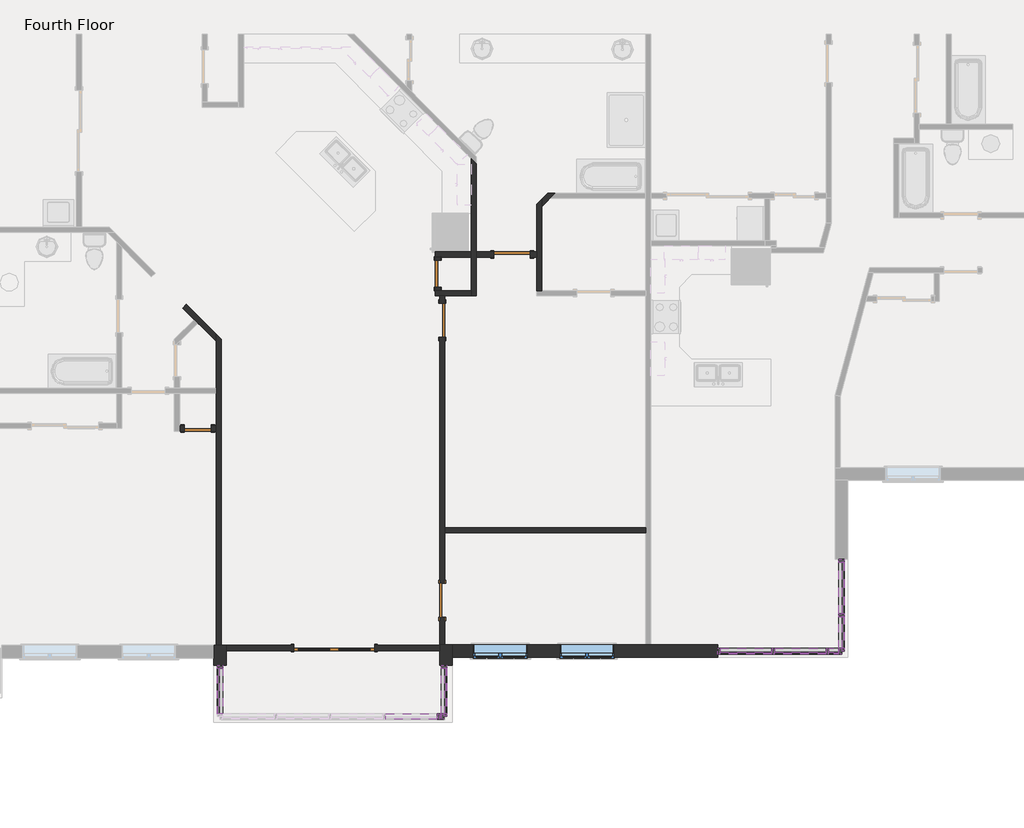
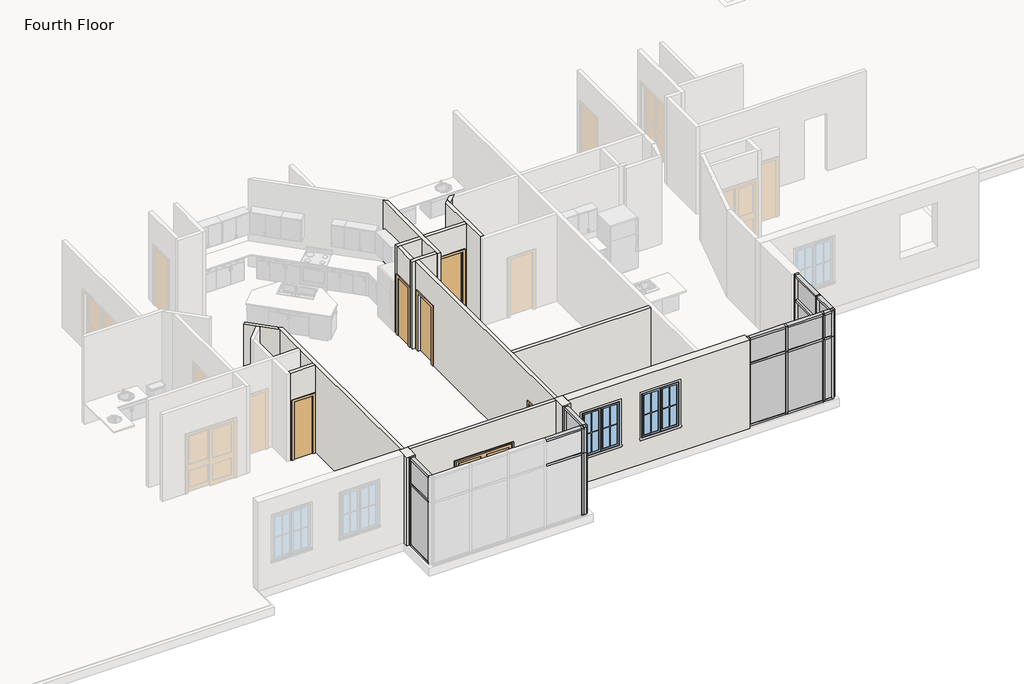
# One storey, part 4 of 17: 50 members, 16 plates, 15 walls, 6 doors, 2 windows.
"""IFC4 building model written with IfcOpenShell, lengths in millimetres."""

from ifc_helpers import new_model, si_unit, frame, origin, place, context, project, spatial, polyline, outline, extrude, faceted_brep, transform, mapped, element, save
from components import door_0a7806e9, door_e2285e44, door_f2b275c1, door_d141acb4, rectangular_mullion_rectangular_mullion_1_fa3625a1, rectangular_mullion_rectangular_mullion_1_7cbf0b94, rectangular_mullion_rectangular_mullion_1_6186cc23, rectangular_mullion_rectangular_mullion_1_049a2e78, rectangular_mullion_rectangular_mullion_1_a50b3cda, rectangular_mullion_rectangular_mullion_1_5cd4c5ac, rectangular_mullion_rectangular_mullion_1_13524bf9, rectangular_mullion_rectangular_mullion_1_a1888574, rectangular_mullion_rectangular_mullion_1_777cae27, rectangular_mullion_rectangular_mullion_1_d1eb19d3, rectangular_mullion_rectangular_mullion_1_51e130ae, rectangular_mullion_rectangular_mullion_1_daa2411d, rectangular_mullion_rectangular_mullion_1_c89d8757, rectangular_mullion_rectangular_mullion_1_6bbe7064, system_panel_glazed_0ed27d1d, system_panel_glazed_134bacdb, system_panel_glazed_53e6f9fb, system_panel_glazed_cb820e14, system_panel_glazed_7c98c5cb, system_panel_glazed_dc3c0d95, system_panel_glazed_257c6b8d, system_panel_glazed_6272dde4, system_panel_glazed_2237517c, system_panel_glazed_5f627d4c, system_panel_glazed_119c605a, system_panel_glazed_b87cf22f, window_33528cc2

model = new_model("IFC4")

# Units and contexts
model_context = context("Model", 3, world=origin())
ifc_project = project(units=[si_unit("LENGTHUNIT", "METRE", prefix="MILLI")], contexts=[model_context])

# Site, building, storey
site = spatial("IfcSite", under=ifc_project)
building = spatial("IfcBuilding", under=site)
storey = spatial("IfcBuildingStorey", under=building, Name="Fourth Floor", Elevation=9144.0)

# Doors
placement = place(None, origin())
door_shape = door_0a7806e9(model_context)
element("IfcDoor", 1, ObjectType="Double-Glass 1 : 72\" x 82\"", at=placement, inside=storey, context=model_context, shape_type="MappedRepresentation", body=[
    mapped(door_shape, transform((35119.623284, -18481.0379087, 9144.0), x_axis=(-1.0, 0.0, 0.0), y_axis=(0.0, -1.0, 0.0), z_axis=(0.0, 0.0, 1.0))),
])
door_2_shape = door_e2285e44(model_context)
element("IfcDoor", 2, ObjectType="Single-Flush : 24\" x 80\"", at=placement, inside=storey, context=model_context, shape_type="MappedRepresentation", body=[
    mapped(door_2_shape, transform((37444.6738013, -10083.539835, 9144.0), x_axis=(0.0, -1.0, 0.0), y_axis=(1.0, 0.0, 0.0), z_axis=(0.0, 0.0, 1.0))),
])
element("IfcDoor", 3, ObjectType="Single-Flush : 24\" x 80\"", at=placement, inside=storey, context=model_context, shape_type="MappedRepresentation", body=[
    mapped(door_2_shape, transform((32056.0053, -13556.0564679, 9144.0), x_axis=(1.0, 0.0, 0.0), y_axis=(0.0, 1.0, 0.0), z_axis=(0.0, 0.0, 1.0))),
])
door_3_shape = door_f2b275c1(model_context)
element("IfcDoor", 4, ObjectType="Single-Flush : 30\" x 80\"", at=placement, inside=storey, context=model_context, shape_type="MappedRepresentation", body=[
    mapped(door_3_shape, transform((37544.2970292, -11126.7896208, 9144.0), x_axis=(0.0, 1.0, 0.0), y_axis=(-1.0, 0.0, 0.0), z_axis=(0.0, 0.0, 1.0))),
])
element("IfcDoor", 5, ObjectType="Single-Flush : 30\" x 80\"", at=placement, inside=storey, context=model_context, shape_type="MappedRepresentation", body=[
    mapped(door_3_shape, transform((37544.2970292, -17416.6191587, 9144.0), x_axis=(0.0, -1.0, 0.0), y_axis=(1.0, 0.0, 0.0), z_axis=(0.0, 0.0, 1.0))),
])
door_4_shape = door_d141acb4(model_context)
element("IfcDoor", 6, ObjectType="Single-Flush : 32\" x 84\"", at=placement, inside=storey, context=model_context, shape_type="MappedRepresentation", body=[
    mapped(door_4_shape, transform((39111.3713345, -9649.8900492, 9144.0), x_axis=(1.0, 0.0, 0.0), y_axis=(0.0, 1.0, 0.0), z_axis=(0.0, 0.0, 1.0))),
])

# Members
rectangular_mullion_rectangular_mullion_1_shape = rectangular_mullion_rectangular_mullion_1_fa3625a1(model_context)
element("IfcMember", 7, ObjectType="Rectangular Mullion : Rectangular Mullion 1", at=placement, inside=storey, context=model_context, shape_type="MappedRepresentation", body=[
    mapped(rectangular_mullion_rectangular_mullion_1_shape, transform((44943.6345295, -18555.6618072, 12192.0), x_axis=(0.0, 0.0, 1.0), y_axis=(0.0, -1.0, 0.0), z_axis=(1.0, 0.0, 0.0))),
])
element("IfcMember", 8, ObjectType="Rectangular Mullion : Rectangular Mullion 1", at=placement, inside=storey, context=model_context, shape_type="MappedRepresentation", body=[
    mapped(rectangular_mullion_rectangular_mullion_1_shape, transform((46162.8345295, -18555.6618072, 12192.0), x_axis=(0.0, 0.0, 1.0), y_axis=(0.0, -1.0, 0.0), z_axis=(1.0, 0.0, 0.0))),
])
element("IfcMember", 9, ObjectType="Rectangular Mullion : Rectangular Mullion 1", at=placement, inside=storey, context=model_context, shape_type="MappedRepresentation", body=[
    mapped(rectangular_mullion_rectangular_mullion_1_shape, transform((37430.4620392, -20021.7015972, 12192.0), x_axis=(0.0, 0.0, 1.0), y_axis=(0.0, -1.0, 0.0), z_axis=(1.0, 0.0, 0.0))),
])
element("IfcMember", 10, ObjectType="Rectangular Mullion : Rectangular Mullion 1", at=placement, inside=storey, context=model_context, shape_type="MappedRepresentation", body=[
    mapped(rectangular_mullion_rectangular_mullion_1_shape, transform((43787.9345292, -18555.6618072, 9144.0), x_axis=(0.0, 0.0, -1.0), y_axis=(0.0, -1.0, 0.0), z_axis=(-1.0, 0.0, 0.0))),
])
element("IfcMember", 11, ObjectType="Rectangular Mullion : Rectangular Mullion 1", at=placement, inside=storey, context=model_context, shape_type="MappedRepresentation", body=[
    mapped(rectangular_mullion_rectangular_mullion_1_shape, transform((45007.1345295, -18555.6618072, 9144.0), x_axis=(0.0, 0.0, -1.0), y_axis=(0.0, -1.0, 0.0), z_axis=(-1.0, 0.0, 0.0))),
])
rectangular_mullion_rectangular_mullion_1_2_shape = rectangular_mullion_rectangular_mullion_1_7cbf0b94(model_context)
element("IfcMember", 12, ObjectType="Rectangular Mullion : Rectangular Mullion 1", at=placement, inside=storey, context=model_context, shape_type="MappedRepresentation", body=[
    mapped(rectangular_mullion_rectangular_mullion_1_2_shape, transform((44943.6345295, -18555.6618072, 11309.35), x_axis=(0.0, 0.0, 1.0), y_axis=(0.0, -1.0, 0.0), z_axis=(1.0, 0.0, 0.0))),
])
element("IfcMember", 13, ObjectType="Rectangular Mullion : Rectangular Mullion 1", at=placement, inside=storey, context=model_context, shape_type="MappedRepresentation", body=[
    mapped(rectangular_mullion_rectangular_mullion_1_2_shape, transform((46162.8345295, -18555.6618072, 11309.35), x_axis=(0.0, 0.0, 1.0), y_axis=(0.0, -1.0, 0.0), z_axis=(1.0, 0.0, 0.0))),
])
element("IfcMember", 14, ObjectType="Rectangular Mullion : Rectangular Mullion 1", at=placement, inside=storey, context=model_context, shape_type="MappedRepresentation", body=[
    mapped(rectangular_mullion_rectangular_mullion_1_2_shape, transform((37430.4620392, -20021.7015972, 11309.35), x_axis=(0.0, 0.0, 1.0), y_axis=(0.0, -1.0, 0.0), z_axis=(1.0, 0.0, 0.0))),
])
rectangular_mullion_rectangular_mullion_1_3_shape = rectangular_mullion_rectangular_mullion_1_6186cc23(model_context)
element("IfcMember", 15, ObjectType="Rectangular Mullion : Rectangular Mullion 1", at=placement, inside=storey, context=model_context, shape_type="MappedRepresentation", body=[
    mapped(rectangular_mullion_rectangular_mullion_1_3_shape, transform((44975.3845295, -18555.6618072, 9144.0), x_axis=(1.0, 0.0, 0.0), y_axis=(0.0, -1.0, 0.0), z_axis=(0.0, 0.0, -1.0))),
])
element("IfcMember", 16, ObjectType="Rectangular Mullion : Rectangular Mullion 1", at=placement, inside=storey, context=model_context, shape_type="MappedRepresentation", body=[
    mapped(rectangular_mullion_rectangular_mullion_1_3_shape, transform((46194.5845295, -18555.6618072, 9144.0), x_axis=(1.0, 0.0, 0.0), y_axis=(0.0, -1.0, 0.0), z_axis=(0.0, 0.0, -1.0))),
])
element("IfcMember", 17, ObjectType="Rectangular Mullion : Rectangular Mullion 1", at=placement, inside=storey, context=model_context, shape_type="MappedRepresentation", body=[
    mapped(rectangular_mullion_rectangular_mullion_1_3_shape, transform((37462.2120392, -20021.7015972, 9144.0), x_axis=(1.0, 0.0, 0.0), y_axis=(0.0, -1.0, 0.0), z_axis=(0.0, 0.0, -1.0))),
])
rectangular_mullion_rectangular_mullion_1_4_shape = rectangular_mullion_rectangular_mullion_1_049a2e78(model_context)
element("IfcMember", 18, ObjectType="Rectangular Mullion : Rectangular Mullion 1", at=placement, inside=storey, context=model_context, shape_type="MappedRepresentation", body=[
    mapped(rectangular_mullion_rectangular_mullion_1_4_shape, transform((44975.3845295, -18555.6618072, 11309.35), x_axis=(1.0, 0.0, 0.0), y_axis=(0.0, -1.0, 0.0), z_axis=(0.0, 0.0, -1.0))),
])
element("IfcMember", 19, ObjectType="Rectangular Mullion : Rectangular Mullion 1", at=placement, inside=storey, context=model_context, shape_type="MappedRepresentation", body=[
    mapped(rectangular_mullion_rectangular_mullion_1_4_shape, transform((46194.5845295, -18555.6618072, 11309.35), x_axis=(1.0, 0.0, 0.0), y_axis=(0.0, -1.0, 0.0), z_axis=(0.0, 0.0, -1.0))),
])
element("IfcMember", 20, ObjectType="Rectangular Mullion : Rectangular Mullion 1", at=placement, inside=storey, context=model_context, shape_type="MappedRepresentation", body=[
    mapped(rectangular_mullion_rectangular_mullion_1_4_shape, transform((37462.2120392, -20021.7015972, 11309.35), x_axis=(1.0, 0.0, 0.0), y_axis=(0.0, -1.0, 0.0), z_axis=(0.0, 0.0, -1.0))),
])
rectangular_mullion_rectangular_mullion_1_5_shape = rectangular_mullion_rectangular_mullion_1_a50b3cda(model_context)
element("IfcMember", 21, ObjectType="Rectangular Mullion : Rectangular Mullion 1", at=placement, inside=storey, context=model_context, shape_type="MappedRepresentation", body=[
    mapped(rectangular_mullion_rectangular_mullion_1_5_shape, transform((46511.3297255, -18555.6618072, 9144.0), x_axis=(1.0, 0.0, 0.0), y_axis=(0.0, -1.0, 0.0), z_axis=(0.0, 0.0, -1.0))),
])
element("IfcMember", 22, ObjectType="Rectangular Mullion : Rectangular Mullion 1", at=placement, inside=storey, context=model_context, shape_type="MappedRepresentation", body=[
    mapped(rectangular_mullion_rectangular_mullion_1_5_shape, transform((37582.8620389, -20021.7015972, 9144.0), x_axis=(1.0, 0.0, 0.0), y_axis=(0.0, -1.0, 0.0), z_axis=(0.0, 0.0, -1.0))),
])
element("IfcMember", 23, ObjectType="Rectangular Mullion : Rectangular Mullion 1", at=placement, inside=storey, context=model_context, shape_type="MappedRepresentation", body=[
    mapped(rectangular_mullion_rectangular_mullion_1_5_shape, transform((37582.8620389, -18872.3566587, 9144.0), x_axis=(0.0, 1.0, 0.0), y_axis=(1.0, 0.0, 0.0), z_axis=(0.0, 0.0, -1.0))),
])
rectangular_mullion_rectangular_mullion_1_6_shape = rectangular_mullion_rectangular_mullion_1_5cd4c5ac(model_context)
element("IfcMember", 24, ObjectType="Rectangular Mullion : Rectangular Mullion 1", at=placement, inside=storey, context=model_context, shape_type="MappedRepresentation", body=[
    mapped(rectangular_mullion_rectangular_mullion_1_6_shape, transform((46511.3297255, -18555.6618072, 11309.35), x_axis=(1.0, 0.0, 0.0), y_axis=(0.0, -1.0, 0.0), z_axis=(0.0, 0.0, -1.0))),
])
element("IfcMember", 25, ObjectType="Rectangular Mullion : Rectangular Mullion 1", at=placement, inside=storey, context=model_context, shape_type="MappedRepresentation", body=[
    mapped(rectangular_mullion_rectangular_mullion_1_6_shape, transform((37582.8620389, -20021.7015972, 11309.35), x_axis=(1.0, 0.0, 0.0), y_axis=(0.0, -1.0, 0.0), z_axis=(0.0, 0.0, -1.0))),
])
element("IfcMember", 26, ObjectType="Rectangular Mullion : Rectangular Mullion 1", at=placement, inside=storey, context=model_context, shape_type="MappedRepresentation", body=[
    mapped(rectangular_mullion_rectangular_mullion_1_6_shape, transform((37582.8620389, -18872.3566587, 11309.35), x_axis=(0.0, 1.0, 0.0), y_axis=(1.0, 0.0, 0.0), z_axis=(0.0, 0.0, -1.0))),
])
element("IfcMember", 27, ObjectType="Rectangular Mullion : Rectangular Mullion 1", at=placement, inside=storey, context=model_context, shape_type="MappedRepresentation", body=[
    mapped(rectangular_mullion_rectangular_mullion_1_6_shape, transform((43724.4345292, -18555.6618072, 12192.0), x_axis=(-1.0, 0.0, 0.0), y_axis=(0.0, -1.0, 0.0), z_axis=(0.0, 0.0, 1.0))),
])
element("IfcMember", 28, ObjectType="Rectangular Mullion : Rectangular Mullion 1", at=placement, inside=storey, context=model_context, shape_type="MappedRepresentation", body=[
    mapped(rectangular_mullion_rectangular_mullion_1_6_shape, transform((32553.6620389, -18872.3566587, 12192.0), x_axis=(0.0, 1.0, 0.0), y_axis=(-1.0, 0.0, 0.0), z_axis=(0.0, 0.0, 1.0))),
])
element("IfcMember", 29, ObjectType="Rectangular Mullion : Rectangular Mullion 1", at=placement, inside=storey, context=model_context, shape_type="MappedRepresentation", body=[
    mapped(rectangular_mullion_rectangular_mullion_1_6_shape, transform((37582.8620389, -20021.7015972, 12192.0), x_axis=(0.0, -1.0, 0.0), y_axis=(1.0, 0.0, 0.0), z_axis=(0.0, 0.0, 1.0))),
])
element("IfcMember", 30, ObjectType="Rectangular Mullion : Rectangular Mullion 1", at=placement, inside=storey, context=model_context, shape_type="MappedRepresentation", body=[
    mapped(rectangular_mullion_rectangular_mullion_1_5_shape, transform((43724.4345292, -18555.6618072, 11309.35), x_axis=(-1.0, 0.0, 0.0), y_axis=(0.0, -1.0, 0.0), z_axis=(0.0, 0.0, 1.0))),
])
element("IfcMember", 31, ObjectType="Rectangular Mullion : Rectangular Mullion 1", at=placement, inside=storey, context=model_context, shape_type="MappedRepresentation", body=[
    mapped(rectangular_mullion_rectangular_mullion_1_5_shape, transform((32553.6620389, -18872.3566587, 11309.35), x_axis=(0.0, 1.0, 0.0), y_axis=(-1.0, 0.0, 0.0), z_axis=(0.0, 0.0, 1.0))),
])
element("IfcMember", 32, ObjectType="Rectangular Mullion : Rectangular Mullion 1", at=placement, inside=storey, context=model_context, shape_type="MappedRepresentation", body=[
    mapped(rectangular_mullion_rectangular_mullion_1_5_shape, transform((37582.8620389, -20021.7015972, 11309.35), x_axis=(0.0, -1.0, 0.0), y_axis=(1.0, 0.0, 0.0), z_axis=(0.0, 0.0, 1.0))),
])
element("IfcMember", 33, ObjectType="Rectangular Mullion : Rectangular Mullion 1", at=placement, inside=storey, context=model_context, shape_type="MappedRepresentation", body=[
    mapped(rectangular_mullion_rectangular_mullion_1_shape, transform((46511.3297255, -17714.54885, 12192.0), x_axis=(0.0, 0.0, 1.0), y_axis=(-1.0, 0.0, 0.0), z_axis=(0.0, -1.0, 0.0))),
])
element("IfcMember", 34, ObjectType="Rectangular Mullion : Rectangular Mullion 1", at=placement, inside=storey, context=model_context, shape_type="MappedRepresentation", body=[
    mapped(rectangular_mullion_rectangular_mullion_1_shape, transform((46511.3297255, -16558.8488497, 9144.0), x_axis=(0.0, 0.0, -1.0), y_axis=(-1.0, 0.0, 0.0), z_axis=(0.0, 1.0, 0.0))),
])
element("IfcMember", 35, ObjectType="Rectangular Mullion : Rectangular Mullion 1", at=placement, inside=storey, context=model_context, shape_type="MappedRepresentation", body=[
    mapped(rectangular_mullion_rectangular_mullion_1_5_shape, transform((46511.3297255, -18555.6618072, 9144.0), x_axis=(0.0, -1.0, 0.0), y_axis=(-1.0, 0.0, 0.0), z_axis=(0.0, 0.0, -1.0))),
])
element("IfcMember", 36, ObjectType="Rectangular Mullion : Rectangular Mullion 1", at=placement, inside=storey, context=model_context, shape_type="MappedRepresentation", body=[
    mapped(rectangular_mullion_rectangular_mullion_1_6_shape, transform((46511.3297255, -18555.6618072, 11309.35), x_axis=(0.0, -1.0, 0.0), y_axis=(-1.0, 0.0, 0.0), z_axis=(0.0, 0.0, -1.0))),
])
element("IfcMember", 37, ObjectType="Rectangular Mullion : Rectangular Mullion 1", at=placement, inside=storey, context=model_context, shape_type="MappedRepresentation", body=[
    mapped(rectangular_mullion_rectangular_mullion_1_6_shape, transform((46511.3297255, -16495.3488497, 12192.0), x_axis=(0.0, 1.0, 0.0), y_axis=(-1.0, 0.0, 0.0), z_axis=(0.0, 0.0, 1.0))),
])
element("IfcMember", 38, ObjectType="Rectangular Mullion : Rectangular Mullion 1", at=placement, inside=storey, context=model_context, shape_type="MappedRepresentation", body=[
    mapped(rectangular_mullion_rectangular_mullion_1_5_shape, transform((46511.3297255, -16495.3488497, 11309.35), x_axis=(0.0, 1.0, 0.0), y_axis=(-1.0, 0.0, 0.0), z_axis=(0.0, 0.0, 1.0))),
])
element("IfcMember", 39, ObjectType="Rectangular Mullion : Rectangular Mullion 1", at=placement, inside=storey, context=model_context, shape_type="MappedRepresentation", body=[
    mapped(rectangular_mullion_rectangular_mullion_1_2_shape, transform((46511.3297255, -17714.54885, 11309.35), x_axis=(0.0, 0.0, 1.0), y_axis=(-1.0, 0.0, 0.0), z_axis=(0.0, -1.0, 0.0))),
])
element("IfcMember", 40, ObjectType="Rectangular Mullion : Rectangular Mullion 1", at=placement, inside=storey, context=model_context, shape_type="MappedRepresentation", body=[
    mapped(rectangular_mullion_rectangular_mullion_1_3_shape, transform((46511.3297255, -17746.29885, 9144.0), x_axis=(0.0, -1.0, 0.0), y_axis=(-1.0, 0.0, 0.0), z_axis=(0.0, 0.0, -1.0))),
])
element("IfcMember", 41, ObjectType="Rectangular Mullion : Rectangular Mullion 1", at=placement, inside=storey, context=model_context, shape_type="MappedRepresentation", body=[
    mapped(rectangular_mullion_rectangular_mullion_1_4_shape, transform((46511.3297255, -17746.29885, 11309.35), x_axis=(0.0, -1.0, 0.0), y_axis=(-1.0, 0.0, 0.0), z_axis=(0.0, 0.0, -1.0))),
])
rectangular_mullion_rectangular_mullion_1_7_shape = rectangular_mullion_rectangular_mullion_1_13524bf9(model_context)
element("IfcMember", 42, ObjectType="Rectangular Mullion : Rectangular Mullion 1", at=placement, inside=storey, context=model_context, shape_type="MappedRepresentation", body=[
    mapped(rectangular_mullion_rectangular_mullion_1_7_shape, transform((46511.3297255, -18492.1618072, 12192.0), x_axis=(0.0, 0.0, 1.0), y_axis=(-1.0, 0.0, 0.0), z_axis=(0.0, -1.0, 0.0))),
])
element("IfcMember", 43, ObjectType="Rectangular Mullion : Rectangular Mullion 1", at=placement, inside=storey, context=model_context, shape_type="MappedRepresentation", body=[
    mapped(rectangular_mullion_rectangular_mullion_1_7_shape, transform((46511.3297255, -17778.04885, 9144.0), x_axis=(0.0, 0.0, -1.0), y_axis=(-1.0, 0.0, 0.0), z_axis=(0.0, 1.0, 0.0))),
])
rectangular_mullion_rectangular_mullion_1_8_shape = rectangular_mullion_rectangular_mullion_1_a1888574(model_context)
element("IfcMember", 44, ObjectType="Rectangular Mullion : Rectangular Mullion 1", at=placement, inside=storey, context=model_context, shape_type="MappedRepresentation", body=[
    mapped(rectangular_mullion_rectangular_mullion_1_8_shape, transform((46511.3297255, -18492.1618072, 11309.35), x_axis=(0.0, 0.0, 1.0), y_axis=(-1.0, 0.0, 0.0), z_axis=(0.0, -1.0, 0.0))),
])
rectangular_mullion_rectangular_mullion_1_9_shape = rectangular_mullion_rectangular_mullion_1_777cae27(model_context)
element("IfcMember", 45, ObjectType="Rectangular Mullion : Rectangular Mullion 1", at=placement, inside=storey, context=model_context, shape_type="MappedRepresentation", body=[
    mapped(rectangular_mullion_rectangular_mullion_1_9_shape, transform((46447.8297255, -18555.6618072, 12192.0), x_axis=(0.0, 0.0, 1.0), y_axis=(0.0, -1.0, 0.0), z_axis=(1.0, 0.0, 0.0))),
])
element("IfcMember", 46, ObjectType="Rectangular Mullion : Rectangular Mullion 1", at=placement, inside=storey, context=model_context, shape_type="MappedRepresentation", body=[
    mapped(rectangular_mullion_rectangular_mullion_1_9_shape, transform((46226.3345295, -18555.6618072, 9144.0), x_axis=(0.0, 0.0, -1.0), y_axis=(0.0, -1.0, 0.0), z_axis=(-1.0, 0.0, 0.0))),
])
rectangular_mullion_rectangular_mullion_1_10_shape = rectangular_mullion_rectangular_mullion_1_d1eb19d3(model_context)
element("IfcMember", 47, ObjectType="Rectangular Mullion : Rectangular Mullion 1", at=placement, inside=storey, context=model_context, shape_type="MappedRepresentation", body=[
    mapped(rectangular_mullion_rectangular_mullion_1_10_shape, transform((46447.8297255, -18555.6618072, 11309.35), x_axis=(0.0, 0.0, 1.0), y_axis=(0.0, -1.0, 0.0), z_axis=(1.0, 0.0, 0.0))),
])
rectangular_mullion_rectangular_mullion_1_11_shape = rectangular_mullion_rectangular_mullion_1_51e130ae(model_context)
element("IfcMember", 48, ObjectType="Rectangular Mullion : Rectangular Mullion 1", at=placement, inside=storey, context=model_context, shape_type="MappedRepresentation", body=[
    mapped(rectangular_mullion_rectangular_mullion_1_11_shape, transform((32553.6620389, -18935.8566587, 9144.0), x_axis=(0.0, 0.0, -1.0), y_axis=(-1.0, 0.0, 0.0), z_axis=(0.0, 1.0, 0.0))),
])
element("IfcMember", 49, ObjectType="Rectangular Mullion : Rectangular Mullion 1", at=placement, inside=storey, context=model_context, shape_type="MappedRepresentation", body=[
    mapped(rectangular_mullion_rectangular_mullion_1_11_shape, transform((37582.8620389, -19958.2015972, 9144.0), x_axis=(0.0, 0.0, -1.0), y_axis=(1.0, 0.0, 0.0), z_axis=(0.0, -1.0, 0.0))),
])
rectangular_mullion_rectangular_mullion_1_12_shape = rectangular_mullion_rectangular_mullion_1_daa2411d(model_context)
element("IfcMember", 50, ObjectType="Rectangular Mullion : Rectangular Mullion 1", at=placement, inside=storey, context=model_context, shape_type="MappedRepresentation", body=[
    mapped(rectangular_mullion_rectangular_mullion_1_12_shape, transform((32553.6620389, -19958.2015972, 11309.35), x_axis=(0.0, 0.0, 1.0), y_axis=(-1.0, 0.0, 0.0), z_axis=(0.0, -1.0, 0.0))),
])
element("IfcMember", 51, ObjectType="Rectangular Mullion : Rectangular Mullion 1", at=placement, inside=storey, context=model_context, shape_type="MappedRepresentation", body=[
    mapped(rectangular_mullion_rectangular_mullion_1_12_shape, transform((37582.8620389, -18935.8566587, 11309.35), x_axis=(0.0, 0.0, 1.0), y_axis=(1.0, 0.0, 0.0), z_axis=(0.0, 1.0, 0.0))),
])
element("IfcMember", 52, ObjectType="Rectangular Mullion : Rectangular Mullion 1", at=placement, inside=storey, context=model_context, shape_type="MappedRepresentation", body=[
    mapped(rectangular_mullion_rectangular_mullion_1_11_shape, transform((32553.6620389, -19958.2015972, 12192.0), x_axis=(0.0, 0.0, 1.0), y_axis=(-1.0, 0.0, 0.0), z_axis=(0.0, -1.0, 0.0))),
])
element("IfcMember", 53, ObjectType="Rectangular Mullion : Rectangular Mullion 1", at=placement, inside=storey, context=model_context, shape_type="MappedRepresentation", body=[
    mapped(rectangular_mullion_rectangular_mullion_1_11_shape, transform((37582.8620389, -18935.8566587, 12192.0), x_axis=(0.0, 0.0, 1.0), y_axis=(1.0, 0.0, 0.0), z_axis=(0.0, 1.0, 0.0))),
])
rectangular_mullion_rectangular_mullion_1_13_shape = rectangular_mullion_rectangular_mullion_1_c89d8757(model_context)
element("IfcMember", 54, ObjectType="Rectangular Mullion : Rectangular Mullion 1", at=placement, inside=storey, context=model_context, shape_type="MappedRepresentation", body=[
    mapped(rectangular_mullion_rectangular_mullion_1_13_shape, transform((37519.3620389, -20021.7015972, 12192.0), x_axis=(0.0, 0.0, 1.0), y_axis=(0.0, -1.0, 0.0), z_axis=(1.0, 0.0, 0.0))),
])
element("IfcMember", 55, ObjectType="Rectangular Mullion : Rectangular Mullion 1", at=placement, inside=storey, context=model_context, shape_type="MappedRepresentation", body=[
    mapped(rectangular_mullion_rectangular_mullion_1_13_shape, transform((37493.9620392, -20021.7015972, 9144.0), x_axis=(0.0, 0.0, -1.0), y_axis=(0.0, -1.0, 0.0), z_axis=(-1.0, 0.0, 0.0))),
])
rectangular_mullion_rectangular_mullion_1_14_shape = rectangular_mullion_rectangular_mullion_1_6bbe7064(model_context)
element("IfcMember", 56, ObjectType="Rectangular Mullion : Rectangular Mullion 1", at=placement, inside=storey, context=model_context, shape_type="MappedRepresentation", body=[
    mapped(rectangular_mullion_rectangular_mullion_1_14_shape, transform((37519.3620389, -20021.7015972, 11309.35), x_axis=(0.0, 0.0, 1.0), y_axis=(0.0, -1.0, 0.0), z_axis=(1.0, 0.0, 0.0))),
])

# Plates
system_panel_glazed_shape = system_panel_glazed_0ed27d1d(model_context)
element("IfcPlate", 57, ObjectType="System Panel : Glazed", at=placement, inside=storey, context=model_context, shape_type="MappedRepresentation", body=[
    mapped(system_panel_glazed_shape, transform((44365.7845293, -18555.6618072, 9207.5), x_axis=(1.0, 0.0, 0.0), y_axis=(0.0, 1.0, 0.0), z_axis=(0.0, 0.0, 1.0))),
])
element("IfcPlate", 58, ObjectType="System Panel : Glazed", at=placement, inside=storey, context=model_context, shape_type="MappedRepresentation", body=[
    mapped(system_panel_glazed_shape, transform((45584.9845295, -18555.6618072, 9207.5), x_axis=(1.0, 0.0, 0.0), y_axis=(0.0, 1.0, 0.0), z_axis=(0.0, 0.0, 1.0))),
])
system_panel_glazed_2_shape = system_panel_glazed_134bacdb(model_context)
element("IfcPlate", 59, ObjectType="System Panel : Glazed", at=placement, inside=storey, context=model_context, shape_type="MappedRepresentation", body=[
    mapped(system_panel_glazed_2_shape, transform((44365.7845293, -18555.6618072, 11341.1), x_axis=(1.0, 0.0, 0.0), y_axis=(0.0, 1.0, 0.0), z_axis=(0.0, 0.0, 1.0))),
])
element("IfcPlate", 60, ObjectType="System Panel : Glazed", at=placement, inside=storey, context=model_context, shape_type="MappedRepresentation", body=[
    mapped(system_panel_glazed_2_shape, transform((45584.9845295, -18555.6618072, 11341.1), x_axis=(1.0, 0.0, 0.0), y_axis=(0.0, 1.0, 0.0), z_axis=(0.0, 0.0, 1.0))),
])
system_panel_glazed_3_shape = system_panel_glazed_53e6f9fb(model_context)
element("IfcPlate", 61, ObjectType="System Panel : Glazed", at=placement, inside=storey, context=model_context, shape_type="MappedRepresentation", body=[
    mapped(system_panel_glazed_3_shape, transform((46511.3297255, -17136.6988499, 9207.5), x_axis=(0.0, -1.0, 0.0), y_axis=(1.0, 0.0, 0.0), z_axis=(0.0, 0.0, 1.0))),
])
system_panel_glazed_4_shape = system_panel_glazed_cb820e14(model_context)
element("IfcPlate", 62, ObjectType="System Panel : Glazed", at=placement, inside=storey, context=model_context, shape_type="MappedRepresentation", body=[
    mapped(system_panel_glazed_4_shape, transform((46511.3297255, -17136.6988499, 11341.1), x_axis=(0.0, -1.0, 0.0), y_axis=(1.0, 0.0, 0.0), z_axis=(0.0, 0.0, 1.0))),
])
system_panel_glazed_5_shape = system_panel_glazed_7c98c5cb(model_context)
element("IfcPlate", 63, ObjectType="System Panel : Glazed", at=placement, inside=storey, context=model_context, shape_type="MappedRepresentation", body=[
    mapped(system_panel_glazed_5_shape, transform((46511.3297255, -18135.1053286, 9207.5), x_axis=(0.0, -1.0, 0.0), y_axis=(1.0, 0.0, 0.0), z_axis=(0.0, 0.0, 1.0))),
])
system_panel_glazed_6_shape = system_panel_glazed_dc3c0d95(model_context)
element("IfcPlate", 64, ObjectType="System Panel : Glazed", at=placement, inside=storey, context=model_context, shape_type="MappedRepresentation", body=[
    mapped(system_panel_glazed_6_shape, transform((46511.3297255, -18135.1053286, 11341.1), x_axis=(0.0, -1.0, 0.0), y_axis=(1.0, 0.0, 0.0), z_axis=(0.0, 0.0, 1.0))),
])
system_panel_glazed_7_shape = system_panel_glazed_257c6b8d(model_context)
element("IfcPlate", 65, ObjectType="System Panel : Glazed", at=placement, inside=storey, context=model_context, shape_type="MappedRepresentation", body=[
    mapped(system_panel_glazed_7_shape, transform((46337.0821275, -18555.6618072, 9207.5), x_axis=(1.0, 0.0, 0.0), y_axis=(0.0, 1.0, 0.0), z_axis=(0.0, 0.0, 1.0))),
])
system_panel_glazed_8_shape = system_panel_glazed_6272dde4(model_context)
element("IfcPlate", 66, ObjectType="System Panel : Glazed", at=placement, inside=storey, context=model_context, shape_type="MappedRepresentation", body=[
    mapped(system_panel_glazed_8_shape, transform((46337.0821275, -18555.6618072, 11341.1), x_axis=(1.0, 0.0, 0.0), y_axis=(0.0, 1.0, 0.0), z_axis=(0.0, 0.0, 1.0))),
])
system_panel_glazed_9_shape = system_panel_glazed_2237517c(model_context)
element("IfcPlate", 67, ObjectType="System Panel : Glazed", at=placement, inside=storey, context=model_context, shape_type="MappedRepresentation", body=[
    mapped(system_panel_glazed_9_shape, transform((32553.6620389, -19447.029128, 9207.5), x_axis=(0.0, -1.0, 0.0), y_axis=(1.0, 0.0, 0.0), z_axis=(0.0, 0.0, 1.0))),
])
element("IfcPlate", 68, ObjectType="System Panel : Glazed", at=placement, inside=storey, context=model_context, shape_type="MappedRepresentation", body=[
    mapped(system_panel_glazed_9_shape, transform((37582.8620389, -19447.029128, 9207.5), x_axis=(0.0, 1.0, 0.0), y_axis=(-1.0, 0.0, 0.0), z_axis=(0.0, 0.0, 1.0))),
])
system_panel_glazed_10_shape = system_panel_glazed_5f627d4c(model_context)
element("IfcPlate", 69, ObjectType="System Panel : Glazed", at=placement, inside=storey, context=model_context, shape_type="MappedRepresentation", body=[
    mapped(system_panel_glazed_10_shape, transform((32553.6620389, -19447.029128, 11341.1), x_axis=(0.0, -1.0, 0.0), y_axis=(1.0, 0.0, 0.0), z_axis=(0.0, 0.0, 1.0))),
])
element("IfcPlate", 70, ObjectType="System Panel : Glazed", at=placement, inside=storey, context=model_context, shape_type="MappedRepresentation", body=[
    mapped(system_panel_glazed_10_shape, transform((37582.8620389, -19447.029128, 11341.1), x_axis=(0.0, 1.0, 0.0), y_axis=(-1.0, 0.0, 0.0), z_axis=(0.0, 0.0, 1.0))),
])
system_panel_glazed_11_shape = system_panel_glazed_119c605a(model_context)
element("IfcPlate", 71, ObjectType="System Panel : Glazed", at=placement, inside=storey, context=model_context, shape_type="MappedRepresentation", body=[
    mapped(system_panel_glazed_11_shape, transform((37506.662039, -20021.7015972, 9207.5), x_axis=(1.0, 0.0, 0.0), y_axis=(0.0, 1.0, 0.0), z_axis=(0.0, 0.0, 1.0))),
])
system_panel_glazed_12_shape = system_panel_glazed_b87cf22f(model_context)
element("IfcPlate", 72, ObjectType="System Panel : Glazed", at=placement, inside=storey, context=model_context, shape_type="MappedRepresentation", body=[
    mapped(system_panel_glazed_12_shape, transform((37506.662039, -20021.7015972, 11341.1), x_axis=(1.0, 0.0, 0.0), y_axis=(0.0, 1.0, 0.0), z_axis=(0.0, 0.0, 1.0))),
])

# Walls
element("IfcWall", 73, ObjectType="Exterior - Brick on Wood Stud", at=placement, inside=storey, context=model_context, shape_type="Brep", body=[
    faceted_brep([(32412.3745389, -18426.2691587, 9144.0), (32412.3745389, -18708.8441587, 9144.0), (32412.3745389, -18872.3566587, 9144.0), (32412.3745389, -18872.3566587, 12192.0), (32412.3745389, -18708.8441587, 12192.0), (32412.3745389, -18426.2691587, 12192.0), (32694.9495389, -18426.2691587, 9144.0), (32694.9495389, -18426.2691587, 12192.0), (32694.9495389, -18540.5691587, 12192.0), (32694.9495389, -18872.3566587, 12192.0), (32694.9495389, -18872.3566587, 9144.0), (32694.9495389, -18540.5691587, 9144.0), (32465.5565643, -18426.2691587, 9144.0), (32579.8565643, -18426.2691587, 9144.0), (32579.8565643, -18426.2691587, 12192.0), (32465.5565643, -18426.2691587, 12192.0)], [[[0, 1, 2, 3, 4, 5]], [[6, 7, 8, 9, 10, 11]], [[2, 1, 0, 12, 13, 6, 11, 10]], [[3, 2, 10, 9]], [[5, 4, 3, 9, 8, 7, 14, 15]], [[0, 5, 15, 14, 7, 6, 13, 12]]]),
])
element("IfcWall", 74, ObjectType="Exterior - Brick on Wood Stud", at=placement, inside=storey, context=model_context, shape_type="Brep", body=[
    faceted_brep([(37769.7220292, -18872.3566587, 9144.0), (37769.7220292, -18696.9493072, 9144.0), (37769.7220292, -18414.3743072, 9144.0), (37769.7220292, -18414.3743072, 12192.0), (37769.7220292, -18696.9493072, 12192.0), (37769.7220292, -18872.3566587, 12192.0), (37487.1470292, -18872.3566587, 9144.0), (37487.1470292, -18872.3566587, 12192.0), (37487.1470292, -18540.5691587, 12192.0), (37487.1470292, -18426.2691587, 12192.0), (37487.1470292, -18414.3743072, 12192.0), (37487.1470292, -18414.3743072, 9144.0), (37487.1470292, -18426.2691587, 9144.0), (37487.1470292, -18540.5691587, 9144.0)], [[[0, 1, 2, 3, 4, 5]], [[6, 7, 8, 9, 10, 11, 12, 13]], [[2, 1, 0, 6, 13, 12, 11]], [[5, 4, 3, 10, 9, 8, 7]], [[0, 5, 7, 6]], [[3, 2, 11, 10]]]),
])
element("IfcWall", 75, ObjectType="Exterior - Brick on Wood Stud", at=placement, inside=storey, context=model_context, shape_type="Brep", body=[
    faceted_brep([(37769.7220292, -18696.9493072, 9144.0), (43724.4345292, -18696.9493072, 9144.0), (43724.4345292, -18696.9493072, 12192.0), (37769.7220292, -18696.9493072, 12192.0), (38238.0345292, -18696.9493072, 11582.4), (39457.2345292, -18696.9493072, 11582.4), (39457.2345292, -18696.9493072, 10058.4), (38238.0345292, -18696.9493072, 10058.4), (40185.8970292, -18696.9493072, 11582.4), (41405.0970292, -18696.9493072, 11582.4), (41405.0970292, -18696.9493072, 10058.4), (40185.8970292, -18696.9493072, 10058.4), (37769.7220292, -18414.3743072, 9144.0), (37769.7220292, -18414.3743072, 12192.0), (42109.9470292, -18414.3743072, 12192.0), (42224.2470292, -18414.3743072, 12192.0), (43724.4345292, -18414.3743072, 12192.0), (43724.4345292, -18414.3743072, 9144.0), (42224.2470292, -18414.3743072, 9144.0), (42109.9470292, -18414.3743072, 9144.0), (38238.0345292, -18414.3743072, 11582.4), (38238.0345292, -18414.3743072, 10058.4), (39457.2345292, -18414.3743072, 10058.4), (39457.2345292, -18414.3743072, 11582.4), (40185.8970292, -18414.3743072, 11582.4), (40185.8970292, -18414.3743072, 10058.4), (41405.0970292, -18414.3743072, 10058.4), (41405.0970292, -18414.3743072, 11582.4)], [[[0, 1, 2, 3], [4, 5, 6, 7], [8, 9, 10, 11]], [[12, 13, 14, 15, 16, 17, 18, 19], [20, 21, 22, 23], [24, 25, 26, 27]], [[1, 0, 12, 19, 18, 17]], [[2, 1, 17, 16]], [[3, 2, 16, 15, 14, 13]], [[21, 20, 4, 7]], [[22, 21, 7, 6]], [[23, 22, 6, 5]], [[20, 23, 5, 4]], [[25, 24, 8, 11]], [[26, 25, 11, 10]], [[27, 26, 10, 9]], [[24, 27, 9, 8]], [[0, 3, 13, 12]]]),
])
element("IfcWall", 76, ObjectType="Interior - 4 1/2\" Partition", at=placement, inside=storey, context=model_context, shape_type="Brep", body=[
    faceted_brep([(32465.5565643, -11438.5770572, 9144.0), (32465.5565643, -11600.2216674, 9144.0), (32465.5565643, -12650.0236347, 9144.0), (32465.5565643, -12764.3236347, 9144.0), (32465.5565643, -13498.9064679, 9144.0), (32465.5565643, -13613.2064679, 9144.0), (32465.5565643, -18426.2691587, 9144.0), (32465.5565643, -18426.2691587, 12192.0), (32465.5565643, -13613.2064679, 12192.0), (32465.5565643, -13498.9064679, 12192.0), (32465.5565643, -12764.3236347, 12192.0), (32465.5565643, -12650.0236347, 12192.0), (32465.5565643, -11600.2216674, 12192.0), (32465.5565643, -11438.5770572, 12192.0), (32579.8565643, -11552.8770572, 9144.0), (32579.8565643, -11552.8770572, 12192.0), (32579.8565643, -18426.2691587, 12192.0), (32579.8565643, -18426.2691587, 9144.0)], [[[0, 1, 2, 3, 4, 5, 6, 7, 8, 9, 10, 11, 12, 13]], [[14, 15, 16, 17]], [[6, 5, 4, 3, 2, 1, 0, 14, 17]], [[13, 12, 11, 10, 9, 8, 7, 16, 15]], [[0, 13, 15, 14]], [[7, 6, 17, 16]]]),
])
element("IfcWall", 77, ObjectType="Interior - 4 1/2\" Partition", at=placement, inside=storey, context=model_context, shape_type="SweptSolid", body=[
    extrude(outline(polyline([(11176.0, 32360.8053), (9144.0, 32360.8053), (9144.0, 32465.5565643), (12192.0, 32465.5565643), (12192.0, 31646.4540357), (9144.0, 31646.4540357), (9144.0, 31751.2053), (11176.0, 31751.2053), (11176.0, 32360.8053)])), frame((0.0, -13613.2064679, 0.0), z_axis=(0.0, 1.0, 0.0), x_axis=(0.0, 0.0, 1.0)), (0.0, 0.0, 1.0), 114.3),
])
element("IfcWall", 78, ObjectType="Interior - 4 1/2\" Partition", at=placement, inside=storey, context=model_context, shape_type="SweptSolid", body=[
    extrude(outline(polyline([(9144.0, 32694.9495389), (9144.0, 34205.223284), (11226.8, 34205.223284), (11226.8, 36034.023284), (9144.0, 36034.023284), (9144.0, 37487.1470292), (12192.0, 37487.1470292), (12192.0, 32694.9495389), (9144.0, 32694.9495389)])), frame((0.0, -18540.5691587, 0.0), z_axis=(0.0, 1.0, 0.0), x_axis=(0.0, 0.0, 1.0)), (0.0, 0.0, 1.0), 114.3),
])
element("IfcWall", 79, ObjectType="Interior - 4 1/2\" Partition", at=placement, inside=storey, context=model_context, shape_type="SweptSolid", body=[
    extrude(outline(polyline([(37601.4470292, -15784.9064679), (42109.9470292, -15784.9064679), (42109.9470292, -15899.2064679), (37601.4470292, -15899.2064679), (37601.4470292, -15784.9064679)])), frame((0.0, 0.0, 9144.0), z_axis=(0.0, 0.0, 1.0), x_axis=(1.0, 0.0, 0.0)), (0.0, 0.0, 1.0), 3048.0),
])
element("IfcWall", 80, ObjectType="Interior - 4 1/2\" Partition", at=placement, inside=storey, context=model_context, shape_type="Brep", body=[
    faceted_brep([(37487.1470292, -17797.6191587, 11176.0), (37487.1470292, -17797.6191587, 9144.0), (37487.1470292, -18426.2691587, 9144.0), (37487.1470292, -18426.2691587, 12192.0), (37487.1470292, -10574.3396208, 12192.0), (37487.1470292, -10574.3396208, 9144.0), (37487.1470292, -10745.7896208, 9144.0), (37487.1470292, -10745.7896208, 11176.0), (37487.1470292, -11507.7896208, 11176.0), (37487.1470292, -11507.7896208, 9144.0), (37487.1470292, -17035.6191587, 9144.0), (37487.1470292, -17035.6191587, 11176.0), (37601.4470292, -18426.2691587, 9144.0), (37601.4470292, -17797.6191587, 9144.0), (37601.4470292, -17797.6191587, 11176.0), (37601.4470292, -17035.6191587, 11176.0), (37601.4470292, -17035.6191587, 9144.0), (37601.4470292, -15899.2064679, 9144.0), (37601.4470292, -15784.9064679, 9144.0), (37601.4470292, -11507.7896208, 9144.0), (37601.4470292, -11507.7896208, 11176.0), (37601.4470292, -10745.7896208, 11176.0), (37601.4470292, -10745.7896208, 9144.0), (37601.4470292, -10574.3396208, 9144.0), (37601.4470292, -10574.3396208, 12192.0), (37601.4470292, -15784.9064679, 12192.0), (37601.4470292, -15899.2064679, 12192.0), (37601.4470292, -18426.2691587, 12192.0)], [[[0, 1, 2, 3, 4, 5, 6, 7, 8, 9, 10, 11]], [[12, 13, 14, 15, 16, 17, 18, 19, 20, 21, 22, 23, 24, 25, 26, 27]], [[23, 22, 6, 5]], [[10, 9, 19, 18, 17, 16]], [[2, 1, 13, 12]], [[4, 3, 27, 26, 25, 24]], [[7, 6, 22, 21]], [[8, 7, 21, 20]], [[9, 8, 20, 19]], [[14, 13, 1, 0]], [[15, 14, 0, 11]], [[16, 15, 11, 10]], [[5, 4, 24, 23]], [[3, 2, 12, 27]]]),
])
element("IfcWall", 81, ObjectType="Interior - 4 1/2\" Partition", at=placement, inside=storey, context=model_context, shape_type="Brep", body=[
    faceted_brep([(38310.9505062, -10574.3396208, 9144.0), (38310.9505062, -9707.0400492, 9144.0), (38310.9505062, -9592.7400492, 9144.0), (38310.9505062, -7612.7771359, 9144.0), (38310.9505062, -7612.7771359, 12192.0), (38310.9505062, -9592.7400492, 12192.0), (38310.9505062, -9707.0400492, 12192.0), (38310.9505062, -10574.3396208, 12192.0), (38196.6505062, -10574.3396208, 9144.0), (38196.6505062, -10574.3396208, 12192.0), (38196.6505062, -10460.0396208, 12192.0), (38196.6505062, -9707.0400492, 12192.0), (38196.6505062, -9592.7400492, 12192.0), (38196.6505062, -7498.4771359, 12192.0), (38196.6505062, -7498.4771359, 9144.0), (38196.6505062, -9592.7400492, 9144.0), (38196.6505062, -9707.0400492, 9144.0), (38196.6505062, -10460.0396208, 9144.0)], [[[0, 1, 2, 3, 4, 5, 6, 7]], [[8, 9, 10, 11, 12, 13, 14, 15, 16, 17]], [[3, 2, 1, 0, 8, 17, 16, 15, 14]], [[7, 6, 5, 4, 13, 12, 11, 10, 9]], [[0, 7, 9, 8]], [[4, 3, 14, 13]]]),
])
element("IfcWall", 82, ObjectType="Interior - 4 1/2\" Partition", at=placement, inside=storey, context=model_context, shape_type="Brep", body=[
    faceted_brep([(37387.5238013, -10574.3396208, 9144.0), (37487.1470292, -10574.3396208, 9144.0), (37601.4470292, -10574.3396208, 9144.0), (38196.6505062, -10574.3396208, 9144.0), (38196.6505062, -10574.3396208, 12192.0), (37601.4470292, -10574.3396208, 12192.0), (37487.1470292, -10574.3396208, 12192.0), (37387.5238013, -10574.3396208, 12192.0), (37387.5238013, -10460.0396208, 9144.0), (37387.5238013, -10460.0396208, 12192.0), (37501.8238013, -10460.0396208, 12192.0), (38196.6505062, -10460.0396208, 12192.0), (38196.6505062, -10460.0396208, 9144.0), (37501.8238013, -10460.0396208, 9144.0)], [[[0, 1, 2, 3, 4, 5, 6, 7]], [[8, 9, 10, 11, 12, 13]], [[3, 2, 1, 0, 8, 13, 12]], [[7, 6, 5, 4, 11, 10, 9]], [[0, 7, 9, 8]], [[4, 3, 12, 11]]]),
])
element("IfcWall", 83, ObjectType="Interior - 4 1/2\" Partition", at=placement, inside=storey, context=model_context, shape_type="Brep", body=[
    faceted_brep([(39517.7713345, -9592.7400492, 9144.0), (39517.7713345, -9592.7400492, 11277.6), (38704.9713345, -9592.7400492, 11277.6), (38704.9713345, -9592.7400492, 9144.0), (38310.9505062, -9592.7400492, 9144.0), (38310.9505062, -9592.7400492, 12192.0), (39663.8213345, -9592.7400492, 12192.0), (39663.8213345, -9592.7400492, 9144.0), (39517.7713345, -9707.0400492, 11277.6), (39517.7713345, -9707.0400492, 9144.0), (39663.8213345, -9707.0400492, 9144.0), (39663.8213345, -9707.0400492, 12192.0), (38310.9505062, -9707.0400492, 12192.0), (38310.9505062, -9707.0400492, 9144.0), (38704.9713345, -9707.0400492, 9144.0), (38704.9713345, -9707.0400492, 11277.6)], [[[0, 1, 2, 3, 4, 5, 6, 7]], [[8, 9, 10, 11, 12, 13, 14, 15]], [[9, 0, 7, 10]], [[3, 14, 13, 4]], [[11, 6, 5, 12]], [[1, 0, 9, 8]], [[2, 1, 8, 15]], [[3, 2, 15, 14]], [[7, 6, 11, 10]], [[5, 4, 13, 12]]]),
    faceted_brep([(37387.5238013, -9592.7400492, 9144.0), (37387.5238013, -9592.7400492, 12192.0), (38196.6505062, -9592.7400492, 12192.0), (38196.6505062, -9592.7400492, 9144.0), (37387.5238013, -9707.0400492, 12192.0), (37387.5238013, -9707.0400492, 9144.0), (37501.8238013, -9707.0400492, 9144.0), (38196.6505062, -9707.0400492, 9144.0), (38196.6505062, -9707.0400492, 12192.0), (37501.8238013, -9707.0400492, 12192.0)], [[[0, 1, 2, 3]], [[4, 5, 6, 7, 8, 9]], [[5, 0, 3, 7, 6]], [[1, 4, 9, 8, 2]], [[1, 0, 5, 4]], [[3, 2, 8, 7]]]),
])
element("IfcWall", 84, ObjectType="Interior - 4 1/2\" Partition", at=placement, inside=storey, context=model_context, shape_type="SweptSolid", body=[
    extrude(outline(polyline([(-10388.339835, 11176.0), (-10388.339835, 9144.0), (-10460.0396208, 9144.0), (-10460.0396208, 12192.0), (-9707.0400492, 12192.0), (-9707.0400492, 9144.0), (-9778.739835, 9144.0), (-9778.739835, 11176.0), (-10388.339835, 11176.0)])), frame((37387.5238013, 0.0, 0.0), z_axis=(1.0, 0.0, 0.0), x_axis=(0.0, 1.0, 0.0)), (0.0, 0.0, 1.0), 114.3),
])
element("IfcWall", 85, ObjectType="Interior - 4 1/2\" Partition", at=placement, inside=storey, context=model_context, shape_type="Brep", body=[
    faceted_brep([(39778.1213345, -10460.0396208, 9144.0), (39778.1213345, -8574.419141, 9144.0), (39778.1213345, -8412.7745308, 9144.0), (39778.1213345, -8412.7745308, 12192.0), (39778.1213345, -8574.419141, 12192.0), (39778.1213345, -10460.0396208, 12192.0), (39663.8213345, -10460.0396208, 9144.0), (39663.8213345, -10460.0396208, 12192.0), (39663.8213345, -9707.0400492, 12192.0), (39663.8213345, -9592.7400492, 12192.0), (39663.8213345, -8527.0745308, 12192.0), (39663.8213345, -8527.0745308, 9144.0), (39663.8213345, -9592.7400492, 9144.0), (39663.8213345, -9707.0400492, 9144.0)], [[[0, 1, 2, 3, 4, 5]], [[6, 7, 8, 9, 10, 11, 12, 13]], [[2, 1, 0, 6, 13, 12, 11]], [[5, 4, 3, 10, 9, 8, 7]], [[3, 2, 11, 10]], [[0, 5, 7, 6]]]),
])
element("IfcWall", 86, ObjectType="Interior - 4 1/2\" Partition", at=placement, inside=storey, context=model_context, shape_type="Brep", body=[
    faceted_brep([(39778.1213345, -8574.419141, 9144.0), (39960.1697865, -8392.370689, 9144.0), (40074.4697865, -8278.070689, 9144.0), (40074.4697865, -8278.070689, 12192.0), (39960.1697865, -8392.370689, 12192.0), (39778.1213345, -8574.419141, 12192.0), (39778.1213345, -8412.7745308, 9144.0), (39778.1213345, -8412.7745308, 12192.0), (39912.8251764, -8278.070689, 12192.0), (39912.8251764, -8278.070689, 9144.0)], [[[0, 1, 2, 3, 4, 5]], [[6, 7, 8, 9]], [[2, 1, 0, 6, 9]], [[5, 4, 3, 8, 7]], [[3, 2, 9, 8]], [[0, 5, 7, 6]]]),
])
element("IfcWall", 87, ObjectType="Interior - 4 1/2\" Partition", at=placement, inside=storey, context=model_context, shape_type="Brep", body=[
    faceted_brep([(31717.0040848, -10851.6691879, 9144.0), (31975.277942, -11109.9430451, 9144.0), (32056.1002471, -11190.7653502, 9144.0), (32465.5565643, -11600.2216674, 9144.0), (32465.5565643, -11600.2216674, 12192.0), (32056.1002471, -11190.7653502, 12192.0), (31975.277942, -11109.9430451, 12192.0), (31717.0040848, -10851.6691879, 12192.0), (31797.8263899, -10770.8468828, 9144.0), (31797.8263899, -10770.8468828, 12192.0), (32465.5565643, -11438.5770572, 12192.0), (32465.5565643, -11438.5770572, 9144.0)], [[[0, 1, 2, 3, 4, 5, 6, 7]], [[8, 9, 10, 11]], [[3, 2, 1, 0, 8, 11]], [[7, 6, 5, 4, 10, 9]], [[0, 7, 9, 8]], [[4, 3, 11, 10]]]),
])

# Windows
window_shape = window_33528cc2(model_context)
element("IfcWindow", 88, ObjectType="Window-Casement-Double : 48\" x 60\"", at=placement, inside=storey, context=model_context, shape_type="MappedRepresentation", body=[
    mapped(window_shape, transform((38847.6345292, -18555.6618072, 9144.0), x_axis=(-1.0, 0.0, 0.0), y_axis=(0.0, -1.0, 0.0), z_axis=(0.0, 0.0, 1.0))),
])
element("IfcWindow", 89, ObjectType="Window-Casement-Double : 48\" x 60\"", at=placement, inside=storey, context=model_context, shape_type="MappedRepresentation", body=[
    mapped(window_shape, transform((40795.4970292, -18555.6618072, 9144.0), x_axis=(-1.0, 0.0, 0.0), y_axis=(0.0, -1.0, 0.0), z_axis=(0.0, 0.0, 1.0))),
])

save(model, "model.ifc")
